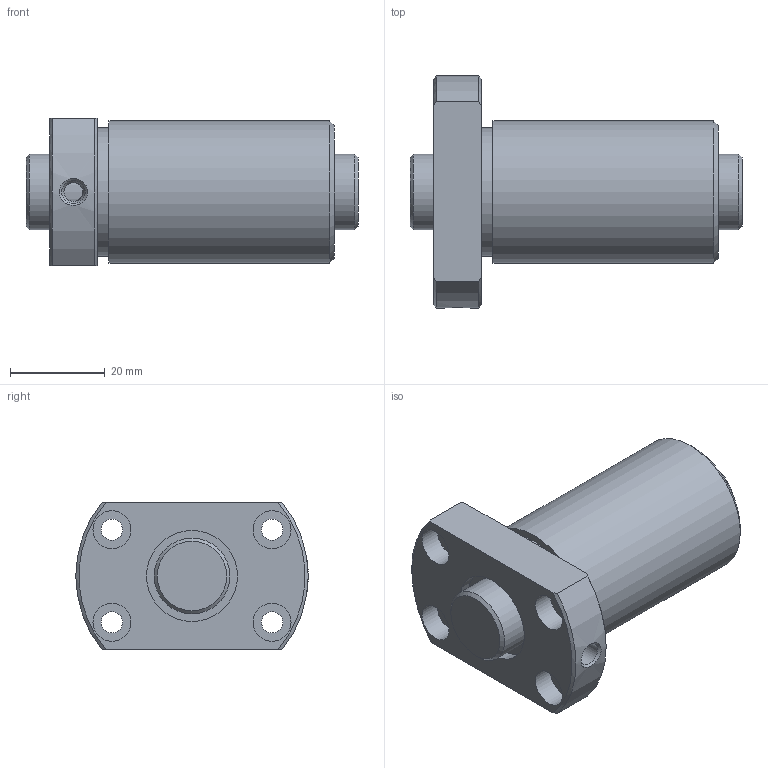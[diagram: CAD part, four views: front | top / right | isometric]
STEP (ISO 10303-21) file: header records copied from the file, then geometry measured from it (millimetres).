
FILE_DESCRIPTION(/* description */ ('STEP AP203'),/* implementation_level */ '2;1');
FILE_NAME(/* name */ 'DIK1605-6RRG0+70LC0_000',/* time_stamp */ '2025-01-13T09:46:45+01:00',/* author */ ('License CC BY-ND 4.0'),/* organization */ ('CADENAS'),/* preprocessor_version */ 'ST-DEVELOPER v19.3',/* originating_system */ 'PARTsolutions',/* authorisation */ ' ');
FILE_SCHEMA (('CONFIG_CONTROL_DESIGN'));
Length unit declared in the file: millimetre
Products named in the file (3): DIK1605-6RRG0+70LC0_000; DIK 1605-6RR07000 Shaft; DIK 1605-6RR Nut
Assembly tree (2 placements, depth 2):
  DIK1605-6RRG0+70LC0_000
    DIK 1605-6RR07000 Shaft
    DIK 1605-6RR Nut
Bounding box: 70 x 49 x 31 mm (x, y, z)
Volume: 49084.9 mm3; surface area: 16476.4 mm2
Topology: 2 solids, 2 shells, 41 faces, 83 edges, 54 vertices
Faces by surface type: cylinder 18, plane 14, cone 9
Full cylindrical faces by diameter (mm): 4 x1, 4.5 x4, 4.917 x1, 8 x4, 16 x2, 19.2 x2, 27 x1, 30 x1
Entity records: 1087 total; most frequent: CARTESIAN_POINT 200, DIRECTION 180, ORIENTED_EDGE 120, AXIS2_PLACEMENT_3D 86, EDGE_LOOP 82, FACE_BOUND 82, EDGE_CURVE 60, VERTEX_POINT 52
